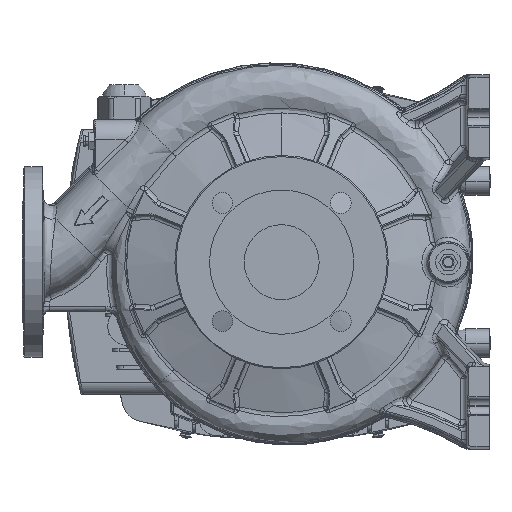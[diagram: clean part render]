
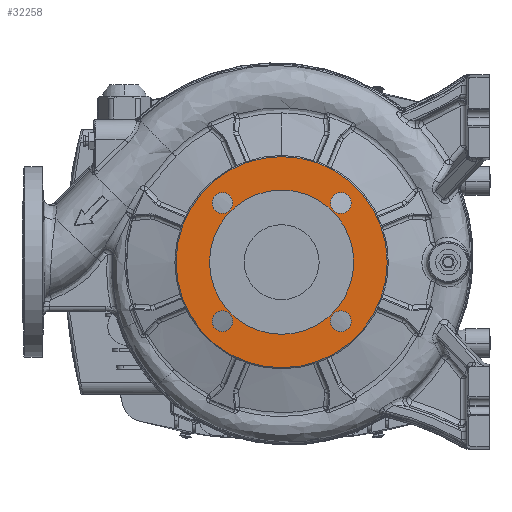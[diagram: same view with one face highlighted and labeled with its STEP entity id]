
A CAD part, left-side view. The second image highlights one B-rep face of the part: STEP entity #32258.
In plain terms, the highlighted planar face has unit normal (-1, 0, 0).
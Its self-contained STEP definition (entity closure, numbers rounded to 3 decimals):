
#828 = ORIENTED_EDGE ( 'NONE', *, *, #120065, .T. ) ;
#2772 = EDGE_CURVE ( 'NONE', #38090, #46930, #3786, .T. ) ;
#3786 = CIRCLE ( 'NONE', #37338, 9. ) ;
#4119 = VERTEX_POINT ( 'NONE', #196520 ) ;
#6040 = DIRECTION ( 'NONE',  ( 0., 0., -1. ) ) ;
#6502 = AXIS2_PLACEMENT_3D ( 'NONE', #180270, #165573, #55541 ) ;
#7077 = CIRCLE ( 'NONE', #124226, 62.5 ) ;
#7803 = DIRECTION ( 'NONE',  ( -1., 0., 0. ) ) ;
#8185 = AXIS2_PLACEMENT_3D ( 'NONE', #175419, #131335, #99928 ) ;
#11276 = EDGE_LOOP ( 'NONE', ( #76056, #176677 ) ) ;
#11697 = FACE_BOUND ( 'NONE', #124608, .T. ) ;
#12137 = CIRCLE ( 'NONE', #52432, 9. ) ;
#14678 = EDGE_CURVE ( 'NONE', #4119, #68127, #68723, .T. ) ;
#15332 = VERTEX_POINT ( 'NONE', #183971 ) ;
#18900 = CARTESIAN_POINT ( 'NONE',  ( -265.5, 0., -62.5 ) ) ;
#20232 = FACE_BOUND ( 'NONE', #110136, .T. ) ;
#23698 = CARTESIAN_POINT ( 'NONE',  ( -265.5, 0., 0. ) ) ;
#24966 = CIRCLE ( 'NONE', #8185, 9. ) ;
#25254 = EDGE_CURVE ( 'NONE', #94092, #205744, #77340, .T. ) ;
#25295 = EDGE_CURVE ( 'NONE', #15332, #50900, #164353, .T. ) ;
#25384 = PLANE ( 'NONE',  #80775 ) ;
#25891 = CARTESIAN_POINT ( 'NONE',  ( -265.5, -51.265, -51.265 ) ) ;
#27693 = CARTESIAN_POINT ( 'NONE',  ( -265.5, 0., 0. ) ) ;
#29062 = DIRECTION ( 'NONE',  ( 0., 0., -1. ) ) ;
#29591 = CARTESIAN_POINT ( 'NONE',  ( -265.5, 51.265, -51.265 ) ) ;
#29974 = ORIENTED_EDGE ( 'NONE', *, *, #104701, .T. ) ;
#32258 = ADVANCED_FACE ( 'NONE', ( #35989, #99886, #20232, #58911, #137476, #11697 ), #25384, .T. ) ;
#33823 = AXIS2_PLACEMENT_3D ( 'NONE', #154615, #170321, #58253 ) ;
#35989 = FACE_OUTER_BOUND ( 'NONE', #205229, .T. ) ;
#37338 = AXIS2_PLACEMENT_3D ( 'NONE', #37521, #166347, #6040 ) ;
#37521 = CARTESIAN_POINT ( 'NONE',  ( -265.5, 51.265, 51.265 ) ) ;
#38090 = VERTEX_POINT ( 'NONE', #99164 ) ;
#40981 = CARTESIAN_POINT ( 'NONE',  ( -265.5, 0., -91.5 ) ) ;
#43989 = CARTESIAN_POINT ( 'NONE',  ( -265.5, -44.901, -44.901 ) ) ;
#46930 = VERTEX_POINT ( 'NONE', #78248 ) ;
#50900 = VERTEX_POINT ( 'NONE', #18900 ) ;
#51481 = EDGE_CURVE ( 'NONE', #205744, #94092, #108409, .T. ) ;
#52432 = AXIS2_PLACEMENT_3D ( 'NONE', #79330, #125397, #175659 ) ;
#55541 = DIRECTION ( 'NONE',  ( 0., 0., -1. ) ) ;
#58106 = DIRECTION ( 'NONE',  ( 0., 0., -1. ) ) ;
#58253 = DIRECTION ( 'NONE',  ( 0., 0., -1. ) ) ;
#58911 = FACE_BOUND ( 'NONE', #176951, .T. ) ;
#60975 = DIRECTION ( 'NONE',  ( 0., 1., 0. ) ) ;
#62101 = CARTESIAN_POINT ( 'NONE',  ( -265.5, 0., 91.5 ) ) ;
#62439 = VERTEX_POINT ( 'NONE', #43989 ) ;
#64693 = EDGE_CURVE ( 'NONE', #68127, #4119, #24966, .T. ) ;
#68127 = VERTEX_POINT ( 'NONE', #160732 ) ;
#68723 = CIRCLE ( 'NONE', #149025, 9. ) ;
#70089 = VERTEX_POINT ( 'NONE', #128397 ) ;
#74090 = DIRECTION ( 'NONE',  ( 0., 0., -1. ) ) ;
#75721 = DIRECTION ( 'NONE',  ( 1., 0., 0. ) ) ;
#76056 = ORIENTED_EDGE ( 'NONE', *, *, #2772, .T. ) ;
#76170 = DIRECTION ( 'NONE',  ( 1., 0., 0. ) ) ;
#76336 = EDGE_CURVE ( 'NONE', #50900, #15332, #7077, .T. ) ;
#77340 = CIRCLE ( 'NONE', #191162, 91.5 ) ;
#78248 = CARTESIAN_POINT ( 'NONE',  ( -265.5, 44.901, 44.901 ) ) ;
#79330 = CARTESIAN_POINT ( 'NONE',  ( -265.5, -51.265, 51.265 ) ) ;
#80775 = AXIS2_PLACEMENT_3D ( 'NONE', #109161, #204427, #60975 ) ;
#81115 = CARTESIAN_POINT ( 'NONE',  ( -265.5, -51.265, 51.265 ) ) ;
#81664 = AXIS2_PLACEMENT_3D ( 'NONE', #27693, #7803, #58106 ) ;
#89667 = DIRECTION ( 'NONE',  ( 0., 0., -1. ) ) ;
#91135 = AXIS2_PLACEMENT_3D ( 'NONE', #183516, #168788, #185587 ) ;
#94092 = VERTEX_POINT ( 'NONE', #62101 ) ;
#94729 = ORIENTED_EDGE ( 'NONE', *, *, #186463, .T. ) ;
#95841 = EDGE_CURVE ( 'NONE', #195814, #186237, #12137, .T. ) ;
#96100 = CARTESIAN_POINT ( 'NONE',  ( -265.5, 0., 0. ) ) ;
#99164 = CARTESIAN_POINT ( 'NONE',  ( -265.5, 57.629, 57.629 ) ) ;
#99886 = FACE_BOUND ( 'NONE', #147097, .T. ) ;
#99928 = DIRECTION ( 'NONE',  ( 0., 0., -1. ) ) ;
#102985 = DIRECTION ( 'NONE',  ( 1., 0., 0. ) ) ;
#104136 = CIRCLE ( 'NONE', #191215, 9. ) ;
#104701 = EDGE_CURVE ( 'NONE', #62439, #70089, #155167, .T. ) ;
#106471 = ORIENTED_EDGE ( 'NONE', *, *, #95841, .T. ) ;
#108409 = CIRCLE ( 'NONE', #81664, 91.5 ) ;
#109161 = CARTESIAN_POINT ( 'NONE',  ( -265.5, 0., 0. ) ) ;
#110136 = EDGE_LOOP ( 'NONE', ( #106471, #828 ) ) ;
#110252 = DIRECTION ( 'NONE',  ( 0., 0., -1. ) ) ;
#111258 = ORIENTED_EDGE ( 'NONE', *, *, #25295, .F. ) ;
#120065 = EDGE_CURVE ( 'NONE', #186237, #195814, #104136, .T. ) ;
#123826 = ORIENTED_EDGE ( 'NONE', *, *, #51481, .T. ) ;
#123993 = ORIENTED_EDGE ( 'NONE', *, *, #25254, .T. ) ;
#124226 = AXIS2_PLACEMENT_3D ( 'NONE', #96100, #126494, #29062 ) ;
#124608 = EDGE_LOOP ( 'NONE', ( #94729, #29974 ) ) ;
#125372 = CARTESIAN_POINT ( 'NONE',  ( -265.5, -57.629, 57.629 ) ) ;
#125397 = DIRECTION ( 'NONE',  ( 1., 0., 0. ) ) ;
#126494 = DIRECTION ( 'NONE',  ( -1., 0., 0. ) ) ;
#128397 = CARTESIAN_POINT ( 'NONE',  ( -265.5, -57.629, -57.629 ) ) ;
#128464 = CARTESIAN_POINT ( 'NONE',  ( -265.5, -44.901, 44.901 ) ) ;
#131335 = DIRECTION ( 'NONE',  ( 1., 0., 0. ) ) ;
#137476 = FACE_BOUND ( 'NONE', #11276, .T. ) ;
#147097 = EDGE_LOOP ( 'NONE', ( #175104, #190641 ) ) ;
#149025 = AXIS2_PLACEMENT_3D ( 'NONE', #29591, #75721, #110252 ) ;
#150150 = DIRECTION ( 'NONE',  ( 0., 0., -1. ) ) ;
#154605 = ORIENTED_EDGE ( 'NONE', *, *, #76336, .F. ) ;
#154615 = CARTESIAN_POINT ( 'NONE',  ( -265.5, 0., 0. ) ) ;
#155167 = CIRCLE ( 'NONE', #181941, 9. ) ;
#155646 = DIRECTION ( 'NONE',  ( -1., 0., 0. ) ) ;
#160732 = CARTESIAN_POINT ( 'NONE',  ( -265.5, 44.901, -44.901 ) ) ;
#161436 = CIRCLE ( 'NONE', #91135, 9. ) ;
#164353 = CIRCLE ( 'NONE', #33823, 62.5 ) ;
#165106 = EDGE_CURVE ( 'NONE', #46930, #38090, #167126, .T. ) ;
#165573 = DIRECTION ( 'NONE',  ( 1., 0., 0. ) ) ;
#166347 = DIRECTION ( 'NONE',  ( 1., 0., 0. ) ) ;
#167126 = CIRCLE ( 'NONE', #6502, 9. ) ;
#168788 = DIRECTION ( 'NONE',  ( 1., 0., 0. ) ) ;
#170321 = DIRECTION ( 'NONE',  ( -1., 0., 0. ) ) ;
#175104 = ORIENTED_EDGE ( 'NONE', *, *, #14678, .T. ) ;
#175419 = CARTESIAN_POINT ( 'NONE',  ( -265.5, 51.265, -51.265 ) ) ;
#175659 = DIRECTION ( 'NONE',  ( 0., 0., -1. ) ) ;
#176677 = ORIENTED_EDGE ( 'NONE', *, *, #165106, .T. ) ;
#176951 = EDGE_LOOP ( 'NONE', ( #154605, #111258 ) ) ;
#180270 = CARTESIAN_POINT ( 'NONE',  ( -265.5, 51.265, 51.265 ) ) ;
#181941 = AXIS2_PLACEMENT_3D ( 'NONE', #25891, #76170, #74090 ) ;
#183516 = CARTESIAN_POINT ( 'NONE',  ( -265.5, -51.265, -51.265 ) ) ;
#183971 = CARTESIAN_POINT ( 'NONE',  ( -265.5, 0., 62.5 ) ) ;
#185587 = DIRECTION ( 'NONE',  ( 0., 0., -1. ) ) ;
#186237 = VERTEX_POINT ( 'NONE', #128464 ) ;
#186463 = EDGE_CURVE ( 'NONE', #70089, #62439, #161436, .T. ) ;
#190641 = ORIENTED_EDGE ( 'NONE', *, *, #64693, .T. ) ;
#191162 = AXIS2_PLACEMENT_3D ( 'NONE', #23698, #155646, #89667 ) ;
#191215 = AXIS2_PLACEMENT_3D ( 'NONE', #81115, #102985, #150150 ) ;
#195814 = VERTEX_POINT ( 'NONE', #125372 ) ;
#196520 = CARTESIAN_POINT ( 'NONE',  ( -265.5, 57.629, -57.629 ) ) ;
#204427 = DIRECTION ( 'NONE',  ( -1., 0., 0. ) ) ;
#205229 = EDGE_LOOP ( 'NONE', ( #123993, #123826 ) ) ;
#205744 = VERTEX_POINT ( 'NONE', #40981 ) ;
